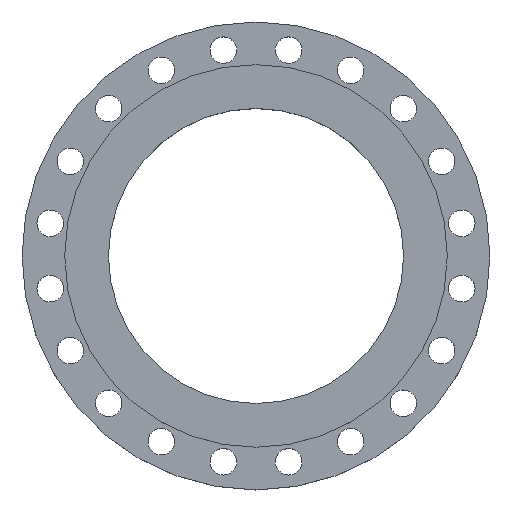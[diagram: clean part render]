
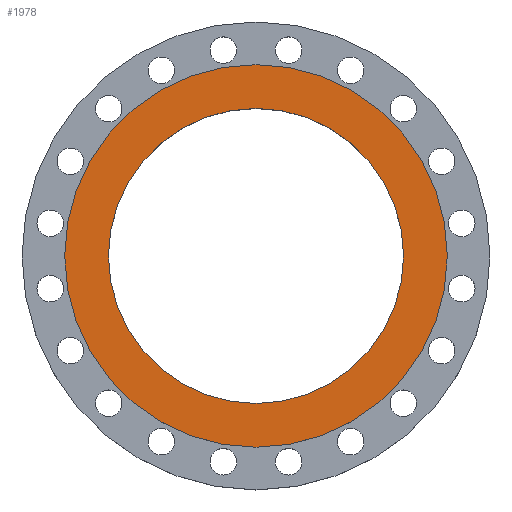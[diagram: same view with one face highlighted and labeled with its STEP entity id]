
A CAD part, top view. The second image highlights one B-rep face of the part: STEP entity #1978.
In plain terms, the highlighted planar face has unit normal (0, 0, 1).
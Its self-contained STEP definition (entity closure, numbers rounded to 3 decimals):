
#71 = AXIS2_PLACEMENT_3D ( 'NONE', #1415, #1325, #1568 ) ;
#75 = VERTEX_POINT ( 'NONE', #1910 ) ;
#85 = DIRECTION ( 'NONE',  ( 1., 0., 0. ) ) ;
#147 = AXIS2_PLACEMENT_3D ( 'NONE', #1090, #250, #422 ) ;
#233 = CARTESIAN_POINT ( 'NONE',  ( 0., 0., 12.5 ) ) ;
#250 = DIRECTION ( 'NONE',  ( 0., 0., 1. ) ) ;
#415 = EDGE_CURVE ( 'NONE', #581, #2009, #871, .T. ) ;
#422 = DIRECTION ( 'NONE',  ( 1., 0., 0. ) ) ;
#463 = FACE_BOUND ( 'NONE', #1050, .T. ) ;
#483 = CARTESIAN_POINT ( 'NONE',  ( 280., 0., 12.5 ) ) ;
#581 = VERTEX_POINT ( 'NONE', #483 ) ;
#624 = PLANE ( 'NONE',  #1698 ) ;
#806 = CIRCLE ( 'NONE', #1690, 280. ) ;
#828 = CARTESIAN_POINT ( 'NONE',  ( 280., 0., 12.5 ) ) ;
#871 = CIRCLE ( 'NONE', #71, 280. ) ;
#898 = CARTESIAN_POINT ( 'NONE',  ( 216., 0., 12.5 ) ) ;
#998 = EDGE_CURVE ( 'NONE', #1028, #75, #1576, .T. ) ;
#1028 = VERTEX_POINT ( 'NONE', #898 ) ;
#1032 = DIRECTION ( 'NONE',  ( 0., 0., 1. ) ) ;
#1041 = ORIENTED_EDGE ( 'NONE', *, *, #415, .T. ) ;
#1050 = EDGE_LOOP ( 'NONE', ( #1829, #1914 ) ) ;
#1090 = CARTESIAN_POINT ( 'NONE',  ( 0., 0., 12.5 ) ) ;
#1235 = AXIS2_PLACEMENT_3D ( 'NONE', #233, #1032, #85 ) ;
#1251 = DIRECTION ( 'NONE',  ( 1., 0., 0. ) ) ;
#1265 = FACE_OUTER_BOUND ( 'NONE', #1994, .T. ) ;
#1325 = DIRECTION ( 'NONE',  ( 0., 0., 1. ) ) ;
#1415 = CARTESIAN_POINT ( 'NONE',  ( 0., 0., 12.5 ) ) ;
#1424 = DIRECTION ( 'NONE',  ( 0., 0., 1. ) ) ;
#1467 = EDGE_CURVE ( 'NONE', #75, #1028, #1496, .T. ) ;
#1478 = ORIENTED_EDGE ( 'NONE', *, *, #1556, .T. ) ;
#1496 = CIRCLE ( 'NONE', #1235, 216. ) ;
#1556 = EDGE_CURVE ( 'NONE', #2009, #581, #806, .T. ) ;
#1568 = DIRECTION ( 'NONE',  ( 1., 0., 0. ) ) ;
#1576 = CIRCLE ( 'NONE', #147, 216. ) ;
#1690 = AXIS2_PLACEMENT_3D ( 'NONE', #2025, #1968, #1992 ) ;
#1698 = AXIS2_PLACEMENT_3D ( 'NONE', #828, #1424, #1251 ) ;
#1829 = ORIENTED_EDGE ( 'NONE', *, *, #998, .F. ) ;
#1879 = CARTESIAN_POINT ( 'NONE',  ( -280., 0., 12.5 ) ) ;
#1910 = CARTESIAN_POINT ( 'NONE',  ( -216., 0., 12.5 ) ) ;
#1914 = ORIENTED_EDGE ( 'NONE', *, *, #1467, .F. ) ;
#1968 = DIRECTION ( 'NONE',  ( 0., 0., 1. ) ) ;
#1978 = ADVANCED_FACE ( 'NONE', ( #1265, #463 ), #624, .T. ) ;
#1992 = DIRECTION ( 'NONE',  ( 1., 0., 0. ) ) ;
#1994 = EDGE_LOOP ( 'NONE', ( #1041, #1478 ) ) ;
#2009 = VERTEX_POINT ( 'NONE', #1879 ) ;
#2025 = CARTESIAN_POINT ( 'NONE',  ( 0., 0., 12.5 ) ) ;
